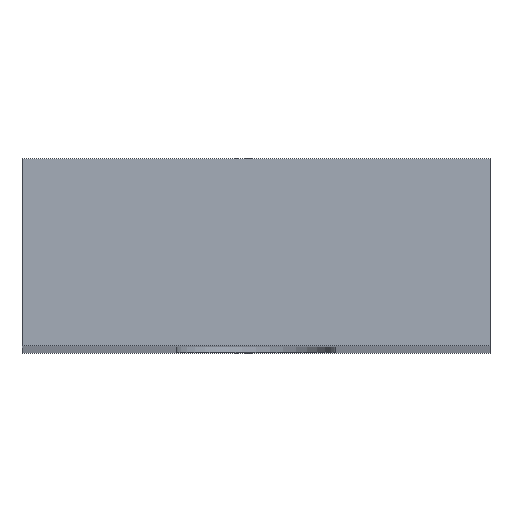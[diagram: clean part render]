
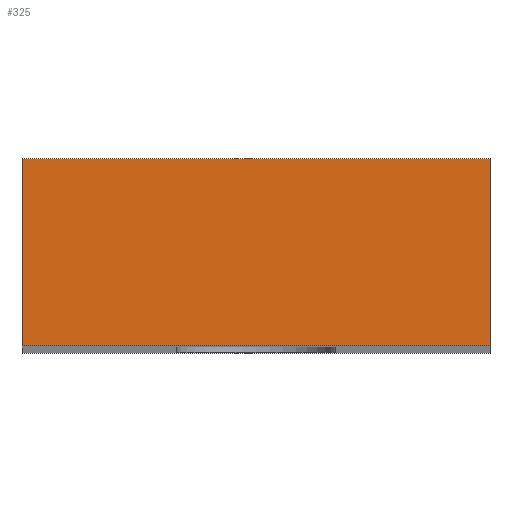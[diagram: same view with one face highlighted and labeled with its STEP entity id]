
A CAD part, top view. The second image highlights one B-rep face of the part: STEP entity #325.
In plain terms, the highlighted planar face has unit normal (0, 0, 1).
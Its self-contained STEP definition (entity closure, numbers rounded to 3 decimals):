
#24 = VERTEX_POINT('',#25);
#25 = CARTESIAN_POINT('',(35.,-22.,45.));
#32 = PLANE('',#33);
#33 = AXIS2_PLACEMENT_3D('',#34,#35,#36);
#34 = CARTESIAN_POINT('',(35.,-22.,-45.));
#35 = DIRECTION('',(1.,0.,0.));
#36 = DIRECTION('',(0.,0.,1.));
#44 = PLANE('',#45);
#45 = AXIS2_PLACEMENT_3D('',#46,#47,#48);
#46 = CARTESIAN_POINT('',(35.,-22.,-45.));
#47 = DIRECTION('',(0.,1.,0.));
#48 = DIRECTION('',(0.,0.,1.));
#85 = VERTEX_POINT('',#86);
#86 = CARTESIAN_POINT('',(35.,-18.,45.));
#100 = PLANE('',#101);
#101 = AXIS2_PLACEMENT_3D('',#102,#103,#104);
#102 = CARTESIAN_POINT('',(35.,-18.,-45.));
#103 = DIRECTION('',(0.,1.,0.));
#104 = DIRECTION('',(0.,0.,1.));
#112 = EDGE_CURVE('',#24,#85,#113,.T.);
#113 = SURFACE_CURVE('',#114,(#118,#125),.PCURVE_S1.);
#114 = LINE('',#115,#116);
#115 = CARTESIAN_POINT('',(35.,-22.,45.));
#116 = VECTOR('',#117,1.);
#117 = DIRECTION('',(0.,1.,0.));
#118 = PCURVE('',#32,#119);
#119 = DEFINITIONAL_REPRESENTATION('',(#120),#124);
#120 = LINE('',#121,#122);
#121 = CARTESIAN_POINT('',(90.,0.));
#122 = VECTOR('',#123,1.);
#123 = DIRECTION('',(0.,-1.));
#124 = ( GEOMETRIC_REPRESENTATION_CONTEXT(2) 
PARAMETRIC_REPRESENTATION_CONTEXT() REPRESENTATION_CONTEXT('2D SPACE',''
  ) );
#125 = PCURVE('',#126,#131);
#126 = PLANE('',#127);
#127 = AXIS2_PLACEMENT_3D('',#128,#129,#130);
#128 = CARTESIAN_POINT('',(35.,-22.,45.));
#129 = DIRECTION('',(0.,0.,1.));
#130 = DIRECTION('',(1.,0.,0.));
#131 = DEFINITIONAL_REPRESENTATION('',(#132),#136);
#132 = LINE('',#133,#134);
#133 = CARTESIAN_POINT('',(0.,0.));
#134 = VECTOR('',#135,1.);
#135 = DIRECTION('',(0.,1.));
#136 = ( GEOMETRIC_REPRESENTATION_CONTEXT(2) 
PARAMETRIC_REPRESENTATION_CONTEXT() REPRESENTATION_CONTEXT('2D SPACE',''
  ) );
#165 = EDGE_CURVE('',#24,#166,#168,.T.);
#166 = VERTEX_POINT('',#167);
#167 = CARTESIAN_POINT('',(45.,-22.,45.));
#168 = SURFACE_CURVE('',#169,(#173,#180),.PCURVE_S1.);
#169 = LINE('',#170,#171);
#170 = CARTESIAN_POINT('',(35.,-22.,45.));
#171 = VECTOR('',#172,1.);
#172 = DIRECTION('',(1.,0.,0.));
#173 = PCURVE('',#44,#174);
#174 = DEFINITIONAL_REPRESENTATION('',(#175),#179);
#175 = LINE('',#176,#177);
#176 = CARTESIAN_POINT('',(90.,0.));
#177 = VECTOR('',#178,1.);
#178 = DIRECTION('',(0.,1.));
#179 = ( GEOMETRIC_REPRESENTATION_CONTEXT(2) 
PARAMETRIC_REPRESENTATION_CONTEXT() REPRESENTATION_CONTEXT('2D SPACE',''
  ) );
#180 = PCURVE('',#126,#181);
#181 = DEFINITIONAL_REPRESENTATION('',(#182),#186);
#182 = LINE('',#183,#184);
#183 = CARTESIAN_POINT('',(0.,0.));
#184 = VECTOR('',#185,1.);
#185 = DIRECTION('',(1.,0.));
#186 = ( GEOMETRIC_REPRESENTATION_CONTEXT(2) 
PARAMETRIC_REPRESENTATION_CONTEXT() REPRESENTATION_CONTEXT('2D SPACE',''
  ) );
#202 = PLANE('',#203);
#203 = AXIS2_PLACEMENT_3D('',#204,#205,#206);
#204 = CARTESIAN_POINT('',(45.,-22.,-45.));
#205 = DIRECTION('',(1.,0.,0.));
#206 = DIRECTION('',(0.,0.,1.));
#325 = ADVANCED_FACE('',(#326),#126,.T.);
#326 = FACE_BOUND('',#327,.T.);
#327 = EDGE_LOOP('',(#328,#329,#330,#353));
#328 = ORIENTED_EDGE('',*,*,#112,.F.);
#329 = ORIENTED_EDGE('',*,*,#165,.T.);
#330 = ORIENTED_EDGE('',*,*,#331,.T.);
#331 = EDGE_CURVE('',#166,#332,#334,.T.);
#332 = VERTEX_POINT('',#333);
#333 = CARTESIAN_POINT('',(45.,-18.,45.));
#334 = SURFACE_CURVE('',#335,(#339,#346),.PCURVE_S1.);
#335 = LINE('',#336,#337);
#336 = CARTESIAN_POINT('',(45.,-22.,45.));
#337 = VECTOR('',#338,1.);
#338 = DIRECTION('',(0.,1.,0.));
#339 = PCURVE('',#126,#340);
#340 = DEFINITIONAL_REPRESENTATION('',(#341),#345);
#341 = LINE('',#342,#343);
#342 = CARTESIAN_POINT('',(10.,0.));
#343 = VECTOR('',#344,1.);
#344 = DIRECTION('',(0.,1.));
#345 = ( GEOMETRIC_REPRESENTATION_CONTEXT(2) 
PARAMETRIC_REPRESENTATION_CONTEXT() REPRESENTATION_CONTEXT('2D SPACE',''
  ) );
#346 = PCURVE('',#202,#347);
#347 = DEFINITIONAL_REPRESENTATION('',(#348),#352);
#348 = LINE('',#349,#350);
#349 = CARTESIAN_POINT('',(90.,0.));
#350 = VECTOR('',#351,1.);
#351 = DIRECTION('',(0.,-1.));
#352 = ( GEOMETRIC_REPRESENTATION_CONTEXT(2) 
PARAMETRIC_REPRESENTATION_CONTEXT() REPRESENTATION_CONTEXT('2D SPACE',''
  ) );
#353 = ORIENTED_EDGE('',*,*,#354,.F.);
#354 = EDGE_CURVE('',#85,#332,#355,.T.);
#355 = SURFACE_CURVE('',#356,(#360,#367),.PCURVE_S1.);
#356 = LINE('',#357,#358);
#357 = CARTESIAN_POINT('',(35.,-18.,45.));
#358 = VECTOR('',#359,1.);
#359 = DIRECTION('',(1.,0.,0.));
#360 = PCURVE('',#126,#361);
#361 = DEFINITIONAL_REPRESENTATION('',(#362),#366);
#362 = LINE('',#363,#364);
#363 = CARTESIAN_POINT('',(0.,4.));
#364 = VECTOR('',#365,1.);
#365 = DIRECTION('',(1.,0.));
#366 = ( GEOMETRIC_REPRESENTATION_CONTEXT(2) 
PARAMETRIC_REPRESENTATION_CONTEXT() REPRESENTATION_CONTEXT('2D SPACE',''
  ) );
#367 = PCURVE('',#100,#368);
#368 = DEFINITIONAL_REPRESENTATION('',(#369),#373);
#369 = LINE('',#370,#371);
#370 = CARTESIAN_POINT('',(90.,0.));
#371 = VECTOR('',#372,1.);
#372 = DIRECTION('',(0.,1.));
#373 = ( GEOMETRIC_REPRESENTATION_CONTEXT(2) 
PARAMETRIC_REPRESENTATION_CONTEXT() REPRESENTATION_CONTEXT('2D SPACE',''
  ) );
